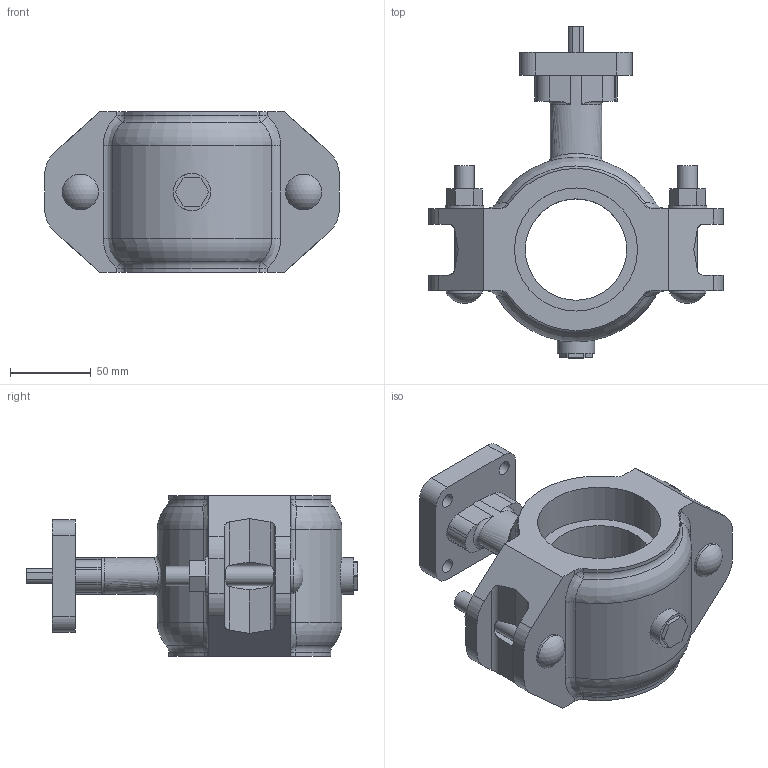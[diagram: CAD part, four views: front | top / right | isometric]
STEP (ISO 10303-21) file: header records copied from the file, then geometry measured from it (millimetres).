
FILE_DESCRIPTION(/* description */ ('VIC SS IR VALVE BUTTERFLY BARE SERIES 124 (OGS)','CAx-IF Rec.Pracs.---Representation and Presentation of Product Manufacturing Information (PMI)---4.0---2014-10-13'),/* implementation_level */ '2;1');
FILE_NAME(/* name */ 'C:\IR-124\step\Victaulic_SS-OGS_Valve Butterfly Bare_IR_Series 124 (OGS)\Victaulic_SS-OGS_Valve Butterfly Bare_IR_Series 124 (OGS)_02.5 (76.1) (65).stp',/* time_stamp */ '2021-08-02T15:24:12+06:00',/* author */ ('Vjadhav'),/* organization */ ('Victaulic'),/* preprocessor_version */ 'ST-DEVELOPER v17.2',/* originating_system */ 'Autodesk Inventor 2019',/* authorisation */ '');
FILE_SCHEMA (('AP242_MANAGED_MODEL_BASED_3D_ENGINEERING_MIM_LF { 1 0 10303 442 1 1 4 }'));
Length unit declared in the file: inch
Products named in the file (1): 124-02.5 (76.1)
Bounding box: 182.37 x 205.49 x 99.31 mm (x, y, z)
Volume: 919365.4 mm3; surface area: 116037 mm2
Topology: 1 solids, 1 shells, 185 faces, 490 edges, 322 vertices
Faces by surface type: plane 91, cylinder 64, bspline 12, sphere 10, torus 8
Full cylindrical faces by diameter (mm): 8.788 x4, 11.938 x4, 22.225 x2, 22.987 x1, 23.876 x2, 62.738 x1, 76.2 x2
Entity records: 6850 total; most frequent: CARTESIAN_POINT 1840, DIRECTION 1002, ORIENTED_EDGE 980, EDGE_CURVE 490, AXIS2_PLACEMENT_3D 363, VERTEX_POINT 322, LINE 276, VECTOR 276
